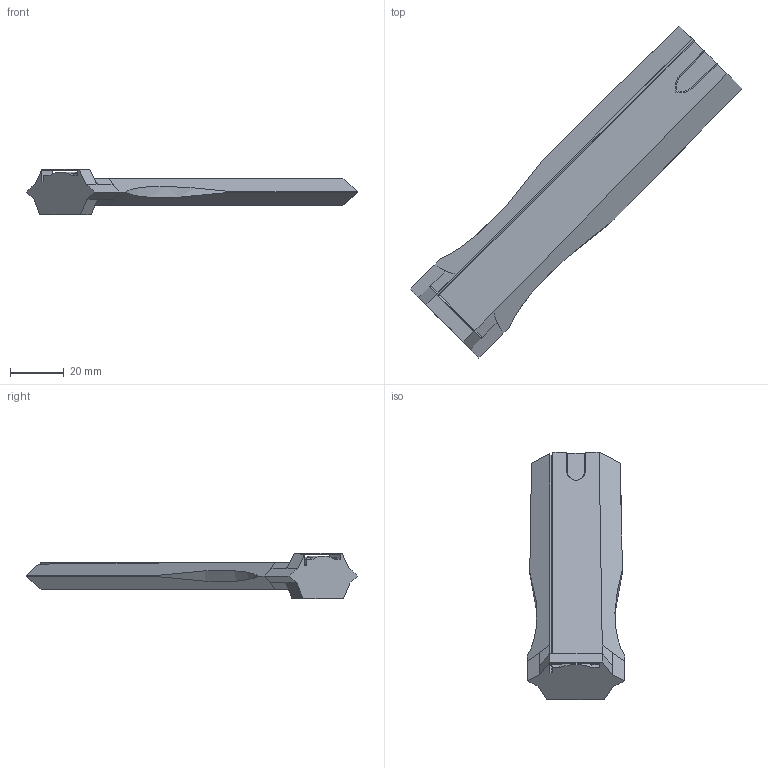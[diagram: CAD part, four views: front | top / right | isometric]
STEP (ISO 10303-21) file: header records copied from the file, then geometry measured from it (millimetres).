
FILE_DESCRIPTION(/* description */ ('STEP AP242 Edition 2','CAx-IF Rec.Pracs.---Representation and Presentation of Product Manufacturing Information (PMI)---4.0---2014-10-13','CAx-IF Rec.Pracs.---3D Tessellated Geometry---0.4---2014-09-14','2;1','CAx-IF Rec.Pracs.---User Defined Attributes---1.5---2016-08-15'),/* implementation_level */ '2;1');
FILE_NAME(/* name */ 'Part Studio 2 - Blade bottom part',/* time_stamp */ '2026-02-06T19:17:58Z',/* author */ (''),/* organization */ (''),/* preprocessor_version */ 'ST-DEVELOPER v20',/* originating_system */ 'ONSHAPE BY PTC INC, 1.210',/* authorisation */ ' ');
FILE_SCHEMA (('AP242_MANAGED_MODEL_BASED_3D_ENGINEERING_MIM_LF { 1 0 10303 442 3 1 4 }'));
Length unit declared in the file: metre
Products named in the file (1): Blade bottom part
Bounding box: 123.52 x 123.52 x 17.1 mm (x, y, z)
Volume: 17460.8 mm3; surface area: 20246.1 mm2
Topology: 1 solids, 1 shells, 112 faces, 319 edges, 205 vertices
Faces by surface type: plane 52, bspline 38, cylinder 22
Entity records: 4727 total; most frequent: CARTESIAN_POINT 2164, ORIENTED_EDGE 638, DIRECTION 358, EDGE_CURVE 319, VERTEX_POINT 205, LINE 166, VECTOR 166, B_SPLINE_CURVE_WITH_KNOTS 132
